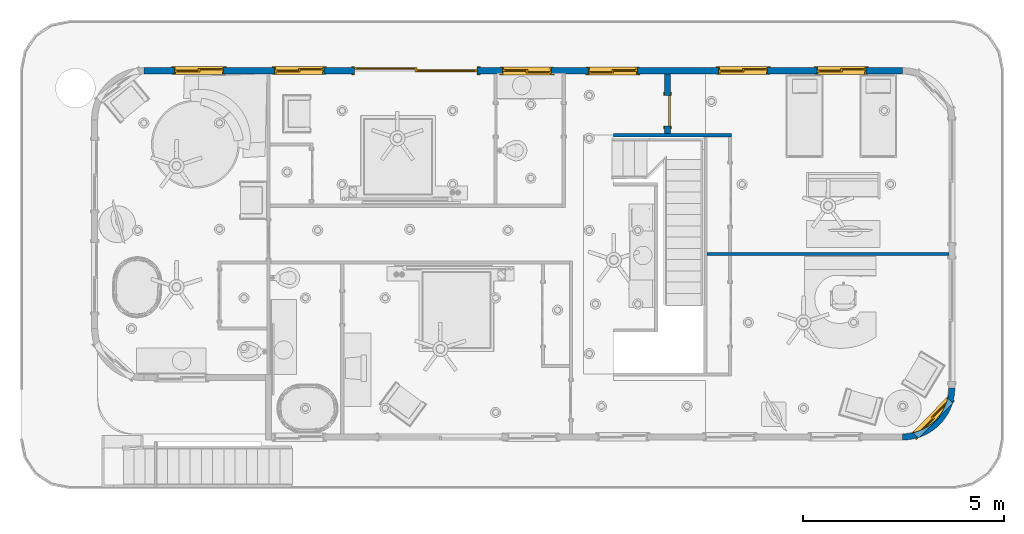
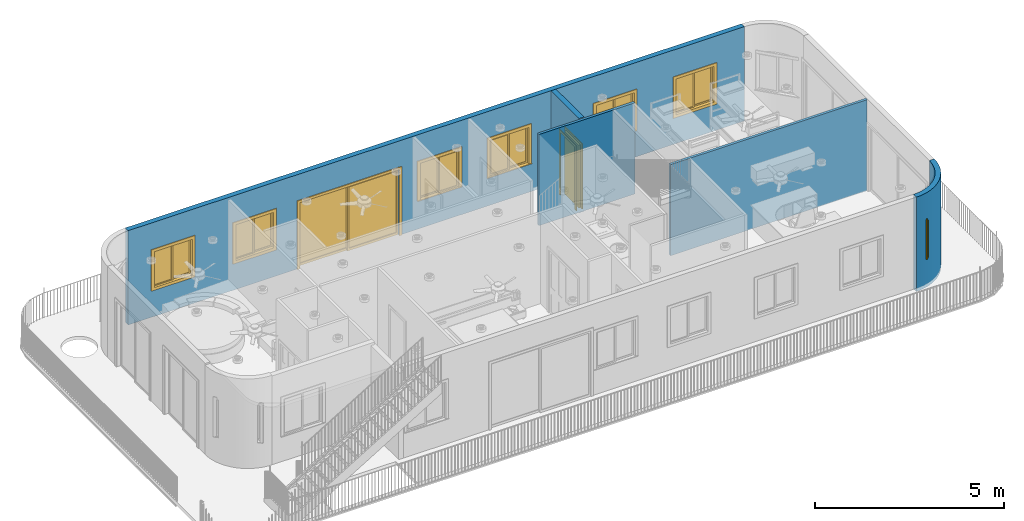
# One storey, part 6 of 28: 7 windows, 5 walls, 2 doors, 9 openings.
"""IFC2X3 building model written with IfcOpenShell, lengths in feet."""

from ifc_helpers import new_model, entity, si_unit, converted_unit, derived_unit, direction, frame, frame_2d, origin, origin_2d_with_axis, place, context, subcontext, project, spatial, polyline, circle_curve, parameter, trimmed, segment, composite_curve, rectangle, outline, extrude, source, transform, mapped, material, material_list, layer, layer_set, layer_usage, type_object, type_shapes, element, fill, save


model = new_model("IFC2X3")

# Units and contexts
model_context = context("Model", 3, precision=0.0001, world=origin(), true_north=direction((6.12303176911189e-17, 1.0)))
body_context = subcontext(model_context, "Body", "Model", "MODEL_VIEW")
ifc_project = project(units=[converted_unit("LENGTHUNIT", "FOOT", entity("IfcRatioMeasure", 0.3048), si_unit("LENGTHUNIT", "METRE"), dimensions=[1, 0, 0, 0, 0, 0, 0]), converted_unit("AREAUNIT", "SQUARE FOOT", entity("IfcRatioMeasure", 0.09290304), si_unit("AREAUNIT", "SQUARE_METRE"), dimensions=[2, 0, 0, 0, 0, 0, 0]), converted_unit("VOLUMEUNIT", "CUBIC FOOT", entity("IfcRatioMeasure", 0.028316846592), si_unit("VOLUMEUNIT", "CUBIC_METRE"), dimensions=[3, 0, 0, 0, 0, 0, 0]), converted_unit("PLANEANGLEUNIT", "DEGREE", entity("IfcRatioMeasure", 0.0174532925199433), si_unit("PLANEANGLEUNIT", "RADIAN"), dimensions=[0, 0, 0, 0, 0, 0, 0]), si_unit("MASSUNIT", "GRAM", prefix="KILO"), derived_unit("MASSDENSITYUNIT", [(si_unit("MASSUNIT", "GRAM", prefix="KILO"), 1), (si_unit("LENGTHUNIT", "METRE"), -3)]), si_unit("TIMEUNIT", "SECOND"), si_unit("FREQUENCYUNIT", "HERTZ"), si_unit("THERMODYNAMICTEMPERATUREUNIT", "DEGREE_CELSIUS"), derived_unit("THERMALTRANSMITTANCEUNIT", [(si_unit("MASSUNIT", "GRAM", prefix="KILO"), 1), (si_unit("THERMODYNAMICTEMPERATUREUNIT", "KELVIN"), -1), (si_unit("TIMEUNIT", "SECOND"), -3)]), derived_unit("VOLUMETRICFLOWRATEUNIT", [(si_unit("LENGTHUNIT", "METRE"), 3), (si_unit("TIMEUNIT", "SECOND"), -1)]), si_unit("ELECTRICCURRENTUNIT", "AMPERE"), si_unit("ELECTRICVOLTAGEUNIT", "VOLT"), si_unit("POWERUNIT", "WATT"), si_unit("FORCEUNIT", "NEWTON"), si_unit("ILLUMINANCEUNIT", "LUX"), si_unit("LUMINOUSFLUXUNIT", "LUMEN"), si_unit("LUMINOUSINTENSITYUNIT", "CANDELA"), derived_unit("USERDEFINED", [(si_unit("MASSUNIT", "GRAM", prefix="KILO"), -1), (si_unit("LENGTHUNIT", "METRE"), -2), (si_unit("TIMEUNIT", "SECOND"), 3), (si_unit("LUMINOUSFLUXUNIT", "LUMEN"), 1)]), derived_unit("LINEARVELOCITYUNIT", [(si_unit("LENGTHUNIT", "METRE"), 1), (si_unit("TIMEUNIT", "SECOND"), -1)]), si_unit("PRESSUREUNIT", "PASCAL"), derived_unit("USERDEFINED", [(si_unit("LENGTHUNIT", "METRE"), -2), (si_unit("MASSUNIT", "GRAM", prefix="KILO"), 1), (si_unit("TIMEUNIT", "SECOND"), -2)])], contexts=[model_context])

# Site, building, storey
site_placement = place(None, origin())
site = spatial("IfcSite", under=ifc_project, at=site_placement, Name="表面", CompositionType="ELEMENT")
building_placement = place(site_placement, origin())
building = spatial("IfcBuilding", under=site, at=building_placement, CompositionType="ELEMENT")
storey_placement = place(building_placement, frame((0.0, 0.0, 10.0)))
storey = spatial("IfcBuildingStorey", under=building, at=storey_placement, Name="Level 2", CompositionType="ELEMENT", Elevation=9.99999999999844)

# Wall, openings, door, windows
ifc_material_1 = material(Name="Paint")
ifc_layer_1 = layer(ifc_material_1, 0.333333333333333)
ifc_material_2 = material(Name="Paints and Coatings")
ifc_layer_2 = layer(ifc_material_2, 0.166666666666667)
ifc_layer_set_1 = layer_set([ifc_layer_1, ifc_layer_2], Name="基本墙:Generic - 4\" Brick")
ifc_layer_usage_1 = layer_usage(ifc_layer_set_1, "AXIS2", "NEGATIVE", 0.25)
wall_type_1 = type_object("IfcWallType", Name="基本墙:Generic - 4\" Brick", PredefinedType="STANDARD", material=ifc_layer_set_1)
wall_1_placement = place(storey_placement, frame((-30.0349130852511, 16.6823936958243, 0.0)))
wall_1 = element("IfcWallStandardCase", 1, at=wall_1_placement, inside=storey, type_object=wall_type_1, material=ifc_layer_usage_1, Name="基本墙:Generic - 4\" Brick", ObjectType="基本墙:Generic - 4\" Brick:257", context=body_context, shape_type="SweptSolid", body=[
    extrude(rectangle(XDim=61.8333333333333, YDim=0.5, at=frame_2d((30.9166666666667, 1.19348975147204e-15), x_axis=(-1.0, 0.0))), origin(), (0.0, 0.0, 1.0), 9.99999999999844),
])
opening_1_placement = place(wall_1_placement, frame((17.1666666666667, -0.250000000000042, 0.0)))
opening_1 = element("IfcOpeningElement", 2, at=opening_1_placement, cuts=wall_1, Name="Sliding-2 panel:72\" x 84\":1", ObjectType="Opening", context=body_context, shape_type="SweptSolid", body=[
    extrude(rectangle(XDim=6.99999999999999, YDim=10.0, at=frame_2d((3.5, 5.0), x_axis=(-1.0, 0.0))), frame((0.0, 0.0, 0.0), z_axis=(0.0, 1.0, 0.0), x_axis=(0.0, 0.0, 1.0)), (0.0, 0.0, 1.0), 0.5),
])
opening_2_placement = place(wall_1_placement, frame((33.2135416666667, 0.249999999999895, 3.0)))
opening_2 = element("IfcOpeningElement", 3, at=opening_2_placement, cuts=wall_1, Name="Slider with Trim:48\" x 48\":1", ObjectType="Opening", context=body_context, shape_type="SweptSolid", body=[
    extrude(rectangle(XDim=3.99999999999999, YDim=3.99999999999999, at=frame_2d((2.0, 1.99999999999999), x_axis=(-1.0, 0.0))), frame((0.0, 0.0, 0.0), z_axis=(0.0, -1.0, 0.0), x_axis=(0.0, 0.0, 1.0)), (0.0, 0.0, 1.0), 0.5),
])
opening_3_placement = place(wall_1_placement, frame((46.8333333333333, -0.25000000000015, 3.0)))
opening_3 = element("IfcOpeningElement", 4, at=opening_3_placement, cuts=wall_1, Name="Slider with Trim:48\" x 48\":1", ObjectType="Opening", context=body_context, shape_type="SweptSolid", body=[
    extrude(rectangle(XDim=3.99999999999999, YDim=3.99999999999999, at=frame_2d((2.0, 2.0), x_axis=(-1.0, 0.0))), frame((0.0, 0.0, 0.0), z_axis=(0.0, 1.0, 0.0), x_axis=(0.0, 0.0, 1.0)), (0.0, 0.0, 1.0), 0.5),
])
opening_4_placement = place(wall_1_placement, frame((54.8333333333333, -0.250000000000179, 3.0)))
opening_4 = element("IfcOpeningElement", 5, at=opening_4_placement, cuts=wall_1, Name="Slider with Trim:48\" x 48\":1", ObjectType="Opening", context=body_context, shape_type="SweptSolid", body=[
    extrude(rectangle(XDim=3.99999999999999, YDim=3.99999999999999, at=frame_2d((2.0, 2.0), x_axis=(-1.0, 0.0))), frame((0.0, 0.0, 0.0), z_axis=(0.0, 1.0, 0.0), x_axis=(0.0, 0.0, 1.0)), (0.0, 0.0, 1.0), 0.5),
])
opening_5_placement = place(wall_1_placement, frame((2.5, -0.250000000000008, 3.0)))
opening_5 = element("IfcOpeningElement", 6, at=opening_5_placement, cuts=wall_1, Name="Slider with Trim:48\" x 48\":1", ObjectType="Opening", context=body_context, shape_type="SweptSolid", body=[
    extrude(rectangle(XDim=3.99999999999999, YDim=3.99999999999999, at=frame_2d((2.0, 2.0), x_axis=(-1.0, 0.0))), frame((0.0, 0.0, 0.0), z_axis=(0.0, 1.0, 0.0), x_axis=(0.0, 0.0, 1.0)), (0.0, 0.0, 1.0), 0.5),
])
opening_6_placement = place(wall_1_placement, frame((10.6666666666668, -0.250000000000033, 3.0)))
opening_6 = element("IfcOpeningElement", 7, at=opening_6_placement, cuts=wall_1, Name="Slider with Trim:48\" x 48\":1", ObjectType="Opening", context=body_context, shape_type="SweptSolid", body=[
    extrude(rectangle(XDim=3.99999999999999, YDim=3.99999999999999, at=frame_2d((2.0, 2.0), x_axis=(-1.0, 0.0))), frame((0.0, 0.0, 0.0), z_axis=(0.0, 1.0, 0.0), x_axis=(0.0, 0.0, 1.0)), (0.0, 0.0, 1.0), 0.5),
])
opening_7_placement = place(wall_1_placement, frame((40.2135416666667, 0.24999999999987, 3.0)))
opening_7 = element("IfcOpeningElement", 8, at=opening_7_placement, cuts=wall_1, Name="Slider with Trim:48\" x 48\":1", ObjectType="Opening", context=body_context, shape_type="SweptSolid", body=[
    extrude(rectangle(XDim=3.99999999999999, YDim=3.99999999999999, at=frame_2d((2.0, 2.0), x_axis=(-1.0, 0.0))), frame((0.0, 0.0, 0.0), z_axis=(0.0, -1.0, 0.0), x_axis=(0.0, 0.0, 1.0)), (0.0, 0.0, 1.0), 0.5),
])
ifc_material_3 = material(Name="Glass")
ifc_material_4 = material(Name="Door - Panel")
ifc_material_5 = material(Name="Door - Frame")
ifc_material_list_1 = material_list([ifc_material_3, ifc_material_4, ifc_material_5])
ifc_material_list_2 = material_list([ifc_material_3, ifc_material_4, ifc_material_5])
door_style_1 = type_object("IfcDoorStyle", Name="72\" x 84\"", ConstructionType="NOTDEFINED", OperationType="NOTDEFINED", ParameterTakesPrecedence=False, Sizeable=False, material=ifc_material_list_2)
shared_shape_1 = source(origin(), body_context, "Body", "SweptSolid", [
    extrude(rectangle(XDim=0.0208333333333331, YDim=4.74999999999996, at=frame_2d((5.55111512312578e-17, 0.0), x_axis=(1.0, 0.0))), frame((7.45833333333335, 0.250000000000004, 0.249999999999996), z_axis=(0.0, 0.0, 1.0), x_axis=(0.0, -1.0, 0.0)), (0.0, 0.0, 1.0), 6.5),
    extrude(outline(polyline([(-2.54166666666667, -3.5), (2.54166666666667, -3.5), (2.54166666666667, 3.5), (-2.54166666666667, 3.5), (-2.54166666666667, -3.5)]), holes=[polyline([(-2.375, -3.25), (-2.375, 3.25), (2.375, 3.25), (2.375, -3.25), (-2.375, -3.25)])]), frame((7.45833333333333, 0.166666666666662, 3.5), z_axis=(0.0, 1.0, 0.0), x_axis=(1.0, 0.0, 0.0)), (0.0, 0.0, 1.0), 0.166666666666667),
    extrude(rectangle(XDim=0.0208333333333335, YDim=4.75000000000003, at=frame_2d((0.0, -4.44089209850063e-16), x_axis=(1.0, 0.0))), frame((2.54166666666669, 0.416666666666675, 0.249999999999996), z_axis=(0.0, 0.0, 1.0), x_axis=(0.0, -1.0, 0.0)), (0.0, 0.0, 1.0), 6.5),
    extrude(outline(polyline([(-3.5, -2.54166666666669), (3.5, -2.54166666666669), (3.5, 2.54166666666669), (-3.5, 2.54166666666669), (-3.5, -2.54166666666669)]), holes=[polyline([(-3.25, -2.37500000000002), (-3.25, 2.37500000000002), (3.25, 2.37500000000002), (3.25, -2.37500000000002), (-3.25, -2.37500000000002)])]), frame((2.54166666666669, 0.333333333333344, 3.5), z_axis=(0.0, 1.0, 0.0), x_axis=(0.0, 0.0, -1.0)), (0.0, 0.0, 1.0), 0.166666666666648),
    extrude(outline(polyline([(-3.5625, -5.25), (3.6875, -5.25), (3.6875, 5.25), (-3.5625, 5.25), (-3.5625, 5.0), (3.4375, 5.0), (3.4375, -5.0), (-3.5625, -5.0), (-3.5625, -5.25)])), frame((5.0, -0.0833333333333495, 3.5625), z_axis=(0.0, 1.0, 0.0), x_axis=(0.0, 0.0, 1.0)), (0.0, 0.0, 1.0), 0.0833333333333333),
    extrude(outline(polyline([(-5.24999999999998, -3.56250000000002), (-5.0, -3.56250000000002), (-5.0, 3.43749999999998), (5.0, 3.43750000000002), (5.0, -3.56249999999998), (5.25000000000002, -3.56249999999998), (5.24999999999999, 3.68750000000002), (-5.25000000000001, 3.68749999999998), (-5.24999999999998, -3.56250000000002)])), frame((5.0, 0.499999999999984, 3.5625), z_axis=(0.0, 1.0, 0.0), x_axis=(-1.0, 0.0, 0.0)), (0.0, 0.0, 1.0), 0.0833333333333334),
])
type_shapes(door_style_1, [shared_shape_1])
door_1_placement = place(opening_1_placement, origin())
door_1 = element("IfcDoor", 9, at=door_1_placement, inside=storey, type_object=door_style_1, material=ifc_material_list_1, Name="Sliding-2 panel:72\" x 84\"", ObjectType="72\" x 84\"", OverallHeight=6.99999999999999, OverallWidth=10.0, context=body_context, shape_type="MappedRepresentation", body=[
    mapped(shared_shape_1, transform((0.0, 0.0, 0.0), scale=1.0)),
])
fill(opening_1, door_1)
ifc_material_6 = material(Name="Sash")
ifc_material_7 = material(Name="Trim")
ifc_material_list_3 = material_list([ifc_material_3, ifc_material_6, ifc_material_7])
ifc_material_list_4 = material_list([ifc_material_3, ifc_material_6, ifc_material_7])
window_style_1 = type_object("IfcWindowStyle", Name="48\" x 48\"", ConstructionType="NOTDEFINED", OperationType="NOTDEFINED", ParameterTakesPrecedence=False, Sizeable=False, material=ifc_material_list_4)
shared_shape_2 = source(origin(), body_context, "Body", "SweptSolid", [
    extrude(rectangle(XDim=0.0416666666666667, YDim=1.71875000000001, at=origin_2d_with_axis()), frame((1.06770833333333, 0.21875, 0.208333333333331), z_axis=(0.0, 0.0, 1.0), x_axis=(0.0, -1.0, 0.0)), (0.0, 0.0, 1.0), 3.58333333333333),
    extrude(outline(polyline([(-1.00520833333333, -1.9375), (1.00520833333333, -1.9375), (1.00520833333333, 1.9375), (-1.00520833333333, 1.9375), (-1.00520833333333, -1.9375)]), holes=[polyline([(-0.859374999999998, -1.79166666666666), (-0.859374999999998, 1.79166666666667), (0.859374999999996, 1.79166666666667), (0.859374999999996, -1.79166666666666), (-0.859374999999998, -1.79166666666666)])]), frame((1.06770833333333, 0.145833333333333, 2.0), z_axis=(0.0, 1.0, 0.0), x_axis=(1.0, 0.0, 0.0)), (0.0, 0.0, 1.0), 0.145833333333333),
    extrude(rectangle(XDim=0.104166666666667, YDim=4.45833333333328, at=frame_2d((-2.77555756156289e-17, 0.0), x_axis=(1.0, 0.0))), frame((2.0, 0.552083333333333, 0.0), z_axis=(0.0, 0.0, 1.0), x_axis=(0.0, -1.0, 0.0)), (0.0, 0.0, 1.0), 0.0624999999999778),
    extrude(outline(polyline([(-1.86458333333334, 1.9375), (2.01041666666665, 1.9375), (2.01041666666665, 2.22916666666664), (-2.15624999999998, 2.22916666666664), (-2.15624999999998, -2.22916666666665), (2.01041666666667, -2.22916666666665), (2.01041666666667, -1.93749999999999), (-1.86458333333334, -1.93749999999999), (-1.86458333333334, 1.9375)])), frame((2.0, 0.5, 2.07291666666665), z_axis=(0.0, 1.0, 0.0), x_axis=(0.0, 0.0, -1.0)), (0.0, 0.0, 1.0), 0.0625),
    extrude(outline(polyline([(-2.18749999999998, -2.18749999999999), (2.18749999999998, -2.18749999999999), (2.18749999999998, 2.18749999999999), (-2.18749999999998, 2.18749999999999), (-2.18749999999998, -2.18749999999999)]), holes=[polyline([(-1.89583333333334, -1.89583333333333), (-1.89583333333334, 1.89583333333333), (1.89583333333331, 1.89583333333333), (1.89583333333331, -1.89583333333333), (-1.89583333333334, -1.89583333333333)])]), frame((2.0, -0.0625, 2.0), z_axis=(0.0, 1.0, 0.0), x_axis=(0.0, 0.0, -1.0)), (0.0, 0.0, 1.0), 0.0625),
    extrude(rectangle(XDim=0.0416666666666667, YDim=1.71874999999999, at=frame_2d((1.38777878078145e-17, 0.0), x_axis=(1.0, 0.0))), frame((2.93229166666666, 0.364583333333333, 0.208333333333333), z_axis=(0.0, 0.0, 1.0), x_axis=(0.0, 1.0, 0.0)), (0.0, 0.0, 1.0), 3.58333333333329),
    extrude(outline(polyline([(-1.00520833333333, -1.93749999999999), (1.00520833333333, -1.93749999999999), (1.00520833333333, 1.93749999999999), (-1.00520833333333, 1.93749999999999), (-1.00520833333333, -1.93749999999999)]), holes=[polyline([(-0.859374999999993, -1.79166666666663), (-0.859374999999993, 1.79166666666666), (0.859374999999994, 1.79166666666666), (0.859374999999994, -1.79166666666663), (-0.859374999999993, -1.79166666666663)])]), frame((2.93229166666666, 0.291666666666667, 2.0), z_axis=(0.0, 1.0, 0.0), x_axis=(1.0, 0.0, 0.0)), (0.0, 0.0, 1.0), 0.145833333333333),
    extrude(outline(polyline([(-2.0, -2.0), (2.0, -2.0), (2.0, 2.0), (-2.0, 2.0), (-2.0, -2.0)]), holes=[polyline([(-1.89583333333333, -1.89583333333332), (-1.89583333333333, 1.89583333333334), (1.89583333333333, 1.89583333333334), (1.89583333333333, -1.89583333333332), (-1.89583333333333, -1.89583333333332)])]), frame((2.0, 0.0, 2.0), z_axis=(0.0, 1.0, 0.0), x_axis=(1.0, 0.0, 0.0)), (0.0, 0.0, 1.0), 0.145833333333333),
    extrude(outline(polyline([(-2.0, -2.0), (2.0, -2.0), (2.0, 2.0), (-2.0, 2.0), (-2.0, -2.0)]), holes=[polyline([(-1.9375, -1.93749999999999), (-1.9375, 1.9375), (1.9375, 1.9375), (1.9375, -1.93749999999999), (-1.9375, -1.93749999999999)])]), frame((2.0, 0.145833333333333, 2.0), z_axis=(0.0, 1.0, 0.0), x_axis=(0.0, 0.0, -1.0)), (0.0, 0.0, 1.0), 0.354166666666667),
])
type_shapes(window_style_1, [shared_shape_2])
window_1_placement = place(opening_3_placement, origin())
window_1 = element("IfcWindow", 10, at=window_1_placement, inside=storey, type_object=window_style_1, material=ifc_material_list_3, Name="Slider with Trim:48\" x 48\"", ObjectType="48\" x 48\"", OverallHeight=3.99999999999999, OverallWidth=3.99999999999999, context=body_context, shape_type="MappedRepresentation", body=[
    mapped(shared_shape_2, transform((0.0, 0.0, 0.0), scale=1.0)),
])
fill(opening_3, window_1)
ifc_material_list_5 = material_list([ifc_material_3, ifc_material_6, ifc_material_7])
window_2_placement = place(opening_4_placement, origin())
window_2 = element("IfcWindow", 11, at=window_2_placement, inside=storey, type_object=window_style_1, material=ifc_material_list_5, Name="Slider with Trim:48\" x 48\"", ObjectType="48\" x 48\"", OverallHeight=3.99999999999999, OverallWidth=3.99999999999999, context=body_context, shape_type="MappedRepresentation", body=[
    mapped(shared_shape_2, transform((0.0, 0.0, 0.0), scale=1.0)),
])
fill(opening_4, window_2)
ifc_material_list_6 = material_list([ifc_material_3, ifc_material_6, ifc_material_7])
window_3_placement = place(opening_5_placement, origin())
window_3 = element("IfcWindow", 12, at=window_3_placement, inside=storey, type_object=window_style_1, material=ifc_material_list_6, Name="Slider with Trim:48\" x 48\"", ObjectType="48\" x 48\"", OverallHeight=3.99999999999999, OverallWidth=3.99999999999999, context=body_context, shape_type="MappedRepresentation", body=[
    mapped(shared_shape_2, transform((0.0, 0.0, 0.0), scale=1.0)),
])
fill(opening_5, window_3)
ifc_material_list_7 = material_list([ifc_material_3, ifc_material_6, ifc_material_7])
window_4_placement = place(opening_6_placement, origin())
window_4 = element("IfcWindow", 13, at=window_4_placement, inside=storey, type_object=window_style_1, material=ifc_material_list_7, Name="Slider with Trim:48\" x 48\"", ObjectType="48\" x 48\"", OverallHeight=3.99999999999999, OverallWidth=3.99999999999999, context=body_context, shape_type="MappedRepresentation", body=[
    mapped(shared_shape_2, transform((0.0, 0.0, 0.0), scale=1.0)),
])
fill(opening_6, window_4)
ifc_material_list_8 = material_list([ifc_material_3, ifc_material_6, ifc_material_7])
window_5_placement = place(opening_7_placement, frame((0.0, 0.0, 0.0), z_axis=(0.0, 0.0, 1.0), x_axis=(-1.0, 0.0, 0.0)))
window_5 = element("IfcWindow", 14, at=window_5_placement, inside=storey, type_object=window_style_1, material=ifc_material_list_8, Name="Slider with Trim:48\" x 48\"", ObjectType="48\" x 48\"", OverallHeight=3.99999999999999, OverallWidth=3.99999999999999, context=body_context, shape_type="MappedRepresentation", body=[
    mapped(shared_shape_2, transform((0.0, 0.0, 0.0), scale=1.0)),
])
fill(opening_7, window_5)
ifc_material_list_9 = material_list([ifc_material_3, ifc_material_6, ifc_material_7])
ifc_material_list_10 = material_list([ifc_material_3, ifc_material_6, ifc_material_7])
window_style_2 = type_object("IfcWindowStyle", Name="48\" x 48\"", ConstructionType="NOTDEFINED", OperationType="NOTDEFINED", ParameterTakesPrecedence=False, Sizeable=False, material=ifc_material_list_10)
shared_shape_3 = source(origin(), body_context, "Body", "SweptSolid", [
    extrude(rectangle(XDim=1.71875000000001, YDim=0.0416666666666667, at=origin_2d_with_axis()), frame((2.93229166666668, 0.21875, 0.208333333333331), z_axis=(0.0, 0.0, 1.0), x_axis=(-1.0, 0.0, 0.0)), (0.0, 0.0, 1.0), 3.58333333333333),
    extrude(outline(polyline([(-1.00520833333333, -1.9375), (1.00520833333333, -1.9375), (1.00520833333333, 1.9375), (-1.00520833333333, 1.9375), (-1.00520833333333, -1.9375)]), holes=[polyline([(-0.859374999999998, -1.79166666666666), (-0.859374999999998, 1.79166666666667), (0.859374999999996, 1.79166666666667), (0.859374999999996, -1.79166666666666), (-0.859374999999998, -1.79166666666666)])]), frame((2.93229166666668, 0.291666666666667, 2.0), z_axis=(0.0, -1.0, 0.0), x_axis=(-1.0, 0.0, 0.0)), (0.0, 0.0, 1.0), 0.145833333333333),
    extrude(rectangle(XDim=4.45833333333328, YDim=0.104166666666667, at=frame_2d((0.0, 2.77555756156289e-17), x_axis=(1.0, 0.0))), frame((2.0, 0.552083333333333, 0.0), z_axis=(0.0, 0.0, 1.0), x_axis=(-1.0, 0.0, 0.0)), (0.0, 0.0, 1.0), 0.0624999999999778),
    extrude(outline(polyline([(-1.86458333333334, 1.9375), (2.01041666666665, 1.9375), (2.01041666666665, 2.22916666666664), (-2.15624999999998, 2.22916666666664), (-2.15624999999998, -2.22916666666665), (2.01041666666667, -2.22916666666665), (2.01041666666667, -1.93749999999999), (-1.86458333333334, -1.93749999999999), (-1.86458333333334, 1.9375)])), frame((2.0, 0.5625, 2.07291666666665), z_axis=(0.0, -1.0, 0.0), x_axis=(0.0, 0.0, -1.0)), (0.0, 0.0, 1.0), 0.0625),
    extrude(outline(polyline([(-2.18749999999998, -2.18749999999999), (2.18749999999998, -2.18749999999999), (2.18749999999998, 2.18749999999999), (-2.18749999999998, 2.18749999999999), (-2.18749999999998, -2.18749999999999)]), holes=[polyline([(-1.89583333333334, -1.89583333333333), (-1.89583333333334, 1.89583333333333), (1.89583333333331, 1.89583333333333), (1.89583333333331, -1.89583333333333), (-1.89583333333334, -1.89583333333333)])]), frame((2.0, 0.0, 2.0), z_axis=(0.0, -1.0, 0.0), x_axis=(0.0, 0.0, -1.0)), (0.0, 0.0, 1.0), 0.0625),
    extrude(rectangle(XDim=1.71874999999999, YDim=0.0416666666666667, at=origin_2d_with_axis()), frame((1.06770833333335, 0.364583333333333, 0.208333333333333)), (0.0, 0.0, 1.0), 3.58333333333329),
    extrude(outline(polyline([(-1.00520833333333, -1.93749999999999), (1.00520833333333, -1.93749999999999), (1.00520833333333, 1.93749999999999), (-1.00520833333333, 1.93749999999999), (-1.00520833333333, -1.93749999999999)]), holes=[polyline([(-0.859374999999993, -1.79166666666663), (-0.859374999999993, 1.79166666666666), (0.859374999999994, 1.79166666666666), (0.859374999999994, -1.79166666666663), (-0.859374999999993, -1.79166666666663)])]), frame((1.06770833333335, 0.4375, 2.0), z_axis=(0.0, -1.0, 0.0), x_axis=(-1.0, 0.0, 0.0)), (0.0, 0.0, 1.0), 0.145833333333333),
    extrude(outline(polyline([(-2.0, -2.0), (2.0, -2.0), (2.0, 2.0), (-2.0, 2.0), (-2.0, -2.0)]), holes=[polyline([(-1.89583333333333, -1.89583333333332), (-1.89583333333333, 1.89583333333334), (1.89583333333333, 1.89583333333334), (1.89583333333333, -1.89583333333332), (-1.89583333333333, -1.89583333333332)])]), frame((2.0, 0.145833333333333, 2.0), z_axis=(0.0, -1.0, 0.0), x_axis=(-1.0, 0.0, 0.0)), (0.0, 0.0, 1.0), 0.145833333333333),
    extrude(outline(polyline([(-2.0, -2.0), (2.0, -2.0), (2.0, 2.0), (-2.0, 2.0), (-2.0, -2.0)]), holes=[polyline([(-1.9375, -1.93749999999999), (-1.9375, 1.9375), (1.9375, 1.9375), (1.9375, -1.93749999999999), (-1.9375, -1.93749999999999)])]), frame((2.0, 0.5, 2.0), z_axis=(0.0, -1.0, 0.0), x_axis=(0.0, 0.0, -1.0)), (0.0, 0.0, 1.0), 0.354166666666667),
])
type_shapes(window_style_2, [shared_shape_3])
window_6_placement = place(opening_2_placement, frame((0.0, 0.0, 0.0), z_axis=(0.0, 0.0, 1.0), x_axis=(-1.0, 0.0, 0.0)))
window_6 = element("IfcWindow", 15, at=window_6_placement, inside=storey, type_object=window_style_2, material=ifc_material_list_9, Name="Slider with Trim:48\" x 48\"", ObjectType="48\" x 48\"", OverallHeight=3.99999999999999, OverallWidth=3.99999999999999, context=body_context, shape_type="MappedRepresentation", body=[
    mapped(shared_shape_3, transform((0.0, 0.0, 0.0), scale=1.0)),
])
fill(opening_2, window_6)

# Wall, opening, window
ifc_layer_usage_2 = layer_usage(ifc_layer_set_1, "AXIS2", "POSITIVE", -0.25)
wall_2_placement = place(storey_placement, frame((35.7984202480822, -9.15093963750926, 0.0)))
wall_2 = element("IfcWallStandardCase", 16, at=wall_2_placement, inside=storey, type_object=wall_type_1, material=ifc_layer_usage_2, Name="基本墙:Generic - 4\" Brick", ObjectType="基本墙:Generic - 4\" Brick:257", context=body_context, shape_type="SweptSolid", body=[
    extrude(outline(composite_curve([segment(trimmed(circle_curve(frame_2d((-4.0, 0.0), x_axis=(1.0, 0.0)), 4.25), [parameter(269.999999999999)], [parameter(360.0)], True, "PARAMETER"), True, "CONTINUOUS"), segment(polyline([(0.25, 0.0), (-0.25, 0.0)]), True, "CONTINUOUS"), segment(trimmed(circle_curve(frame_2d((-4.0, 0.0), x_axis=(1.0, 0.0)), 3.75), [parameter(269.999999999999)], [parameter(360.0)], True, "PARAMETER"), False, "CONTINUOUS"), segment(polyline([(-4.0, -3.74999999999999), (-4.0, -4.24999999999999)]), True, "CONTINUOUS")], self_intersect=False)), origin(), (0.0, 0.0, 1.0), 9.99999999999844),
])
opening_8_placement = place(wall_2_placement, frame((-3.18073899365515, 2.00353585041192, 3.0)))
opening_8 = element("IfcOpeningElement", 17, at=opening_8_placement, cuts=wall_2, Name="Slider with Trim:48\" x 48\":1", ObjectType="Opening", context=body_context, shape_type="SweptSolid", body=[
    extrude(rectangle(XDim=3.99999999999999, YDim=3.99999999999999, at=frame_2d((2.0, 2.0), x_axis=(-1.0, 0.0))), frame((0.0, 0.0, 0.0), z_axis=(0.710479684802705, -0.703717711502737, 0.0), x_axis=(0.0, 0.0, 1.0)), (0.0, 0.0, 1.0), 4.62701640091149),
])
ifc_material_list_11 = material_list([ifc_material_3, ifc_material_6, ifc_material_7])
window_7_placement = place(opening_8_placement, frame((2.84191855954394, -2.81487066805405, 0.0), z_axis=(0.0, 0.0, 1.0), x_axis=(-0.703717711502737, -0.710479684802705, 0.0)))
window_7 = element("IfcWindow", 18, at=window_7_placement, inside=storey, type_object=window_style_1, material=ifc_material_list_11, Name="Slider with Trim:48\" x 48\"", ObjectType="48\" x 48\"", OverallHeight=3.99999999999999, OverallWidth=3.99999999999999, context=body_context, shape_type="MappedRepresentation", body=[
    mapped(shared_shape_2, transform((0.0, 0.0, 0.0), scale=1.0)),
])
fill(opening_8, window_7)

# Wall, opening, door
ifc_layer_usage_3 = layer_usage(ifc_layer_set_1, "AXIS2", "NEGATIVE", 0.25)
wall_3_placement = place(storey_placement, frame((12.6317535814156, 11.5626020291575, 0.0), z_axis=(0.0, 0.0, 1.0), x_axis=(0.0, 1.0, 0.0)))
wall_3 = element("IfcWallStandardCase", 19, at=wall_3_placement, inside=storey, type_object=wall_type_1, material=ifc_layer_usage_3, Name="基本墙:Generic - 4\" Brick", ObjectType="基本墙:Generic - 4\" Brick:257", context=body_context, shape_type="SweptSolid", body=[
    extrude(rectangle(XDim=4.86979166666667, YDim=0.5, at=frame_2d((2.43489583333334, -3.19189119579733e-16), x_axis=(-1.0, 0.0))), origin(), (0.0, 0.0, 1.0), 9.99999999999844),
])
opening_9_placement = place(wall_3_placement, frame((3.11979166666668, 0.249999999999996, 0.0)))
opening_9 = element("IfcOpeningElement", 20, at=opening_9_placement, cuts=wall_3, Name="Single-Flush:30\" x 80\":1", ObjectType="Opening", context=body_context, shape_type="SweptSolid", body=[
    extrude(rectangle(XDim=2.5, YDim=6.66666666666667, at=frame_2d((3.33333333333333, 1.25), x_axis=(0.0, 1.0))), frame((0.0, 0.0, 0.0), z_axis=(0.0, -1.0, 0.0), x_axis=(0.0, 0.0, 1.0)), (0.0, 0.0, 1.0), 0.5),
])
ifc_material_list_12 = material_list([ifc_material_5, ifc_material_4])
ifc_material_list_13 = material_list([ifc_material_5, ifc_material_4])
door_style_2 = type_object("IfcDoorStyle", Name="30\" x 80\"", ConstructionType="NOTDEFINED", OperationType="SINGLE_SWING_RIGHT", ParameterTakesPrecedence=False, Sizeable=False, material=ifc_material_list_13)
shared_shape_4 = source(origin(), body_context, "Body", "SweptSolid", [
    extrude(outline(polyline([(-1.5, -3.52083333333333), (1.5, -3.52083333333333), (1.5, 3.39583333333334), (1.25, 3.39583333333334), (1.25, -3.27083333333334), (-1.25, -3.27083333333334), (-1.25, 3.39583333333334), (-1.5, 3.39583333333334), (-1.5, -3.52083333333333)])), frame((1.25, 0.500000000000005, 3.39583333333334), z_axis=(0.0, 1.0, 0.0), x_axis=(1.0, 0.0, 0.0)), (0.0, 0.0, 1.0), 0.0833333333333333),
    extrude(outline(polyline([(-3.52083333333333, -1.49999999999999), (3.39583333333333, -1.49999999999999), (3.39583333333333, -1.25000000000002), (-3.27083333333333, -1.25000000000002), (-3.27083333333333, 1.25000000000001), (3.39583333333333, 1.25000000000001), (3.39583333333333, 1.50000000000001), (-3.52083333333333, 1.50000000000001), (-3.52083333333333, -1.49999999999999)])), frame((1.25000000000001, -0.0833333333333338, 3.39583333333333), z_axis=(0.0, 1.0, 0.0), x_axis=(0.0, 0.0, -1.0)), (0.0, 0.0, 1.0), 0.0833333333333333),
    extrude(rectangle(XDim=0.166666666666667, YDim=2.5, at=origin_2d_with_axis()), frame((1.25, 0.416666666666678, 0.0), z_axis=(0.0, 0.0, 1.0), x_axis=(0.0, 1.0, 0.0)), (0.0, 0.0, 1.0), 6.66666666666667),
])
type_shapes(door_style_2, [shared_shape_4])
door_2_placement = place(opening_9_placement, frame((0.0, 0.0, 0.0), z_axis=(0.0, 0.0, 1.0), x_axis=(-1.0, 0.0, 0.0)))
door_2 = element("IfcDoor", 21, at=door_2_placement, inside=storey, type_object=door_style_2, material=ifc_material_list_12, Name="Single-Flush:30\" x 80\"", ObjectType="30\" x 80\"", OverallHeight=6.66666666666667, OverallWidth=2.5, context=body_context, shape_type="MappedRepresentation", body=[
    mapped(shared_shape_4, transform((0.0, 0.0, 0.0), scale=1.0)),
])
fill(opening_9, door_2)

# Walls
ifc_material_8 = material(Name="Gypsum Wall Board")
ifc_layer_3 = layer(ifc_material_8, 0.0416666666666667)
ifc_layer_4 = layer(ifc_material_8, 0.0208333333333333)
ifc_material_9 = material(Name="Metal - Stud Layer")
ifc_layer_5 = layer(ifc_material_9, 0.135416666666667)
ifc_layer_6 = layer(ifc_material_8, 0.0208333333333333)
ifc_layer_7 = layer(ifc_material_8, 0.0416666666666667)
ifc_layer_set_2 = layer_set([ifc_layer_3, ifc_layer_4, ifc_layer_5, ifc_layer_6, ifc_layer_7], Name="基本墙:Interior - 3 1/8\" Partition (1-hr)")
ifc_layer_usage_4 = layer_usage(ifc_layer_set_2, "AXIS2", "NEGATIVE", 0.130208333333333)
wall_type_2 = type_object("IfcWallType", Name="基本墙:Interior - 3 1/8\" Partition (1-hr)", PredefinedType="STANDARD", material=ifc_layer_set_2)
wall_4_placement = place(storey_placement, frame((8.21508691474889, 11.4323936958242, 0.250000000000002)))
element("IfcWallStandardCase", 22, at=wall_4_placement, inside=storey, type_object=wall_type_2, material=ifc_layer_usage_4, Name="基本墙:Interior - 3 1/8\" Partition (1-hr)", ObjectType="基本墙:Interior - 3 1/8\" Partition (1-hr):258", context=body_context, shape_type="SweptSolid", body=[
    extrude(rectangle(XDim=9.63020833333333, YDim=0.260416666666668, at=frame_2d((4.81510416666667, 2.22044604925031e-16), x_axis=(-1.0, 0.0))), origin(), (0.0, 0.0, 1.0), 9.66666666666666),
])
ifc_layer_usage_5 = layer_usage(ifc_layer_set_2, "AXIS2", "NEGATIVE", 0.130208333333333)
wall_5_placement = place(storey_placement, frame((35.5484202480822, 1.76572702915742, 0.250000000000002), z_axis=(0.0, 0.0, 1.0), x_axis=(-1.0, 0.0, 0.0)))
element("IfcWallStandardCase", 23, at=wall_5_placement, inside=storey, type_object=wall_type_2, material=ifc_layer_usage_5, Name="基本墙:Interior - 3 1/8\" Partition (1-hr)", ObjectType="基本墙:Interior - 3 1/8\" Partition (1-hr):258", context=body_context, shape_type="SweptSolid", body=[
    extrude(rectangle(XDim=19.703125, YDim=0.260416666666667, at=frame_2d((9.8515625, 5.55111512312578e-17), x_axis=(-1.0, 0.0))), origin(), (0.0, 0.0, 1.0), 9.66666666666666),
])

save(model, "model.ifc")
